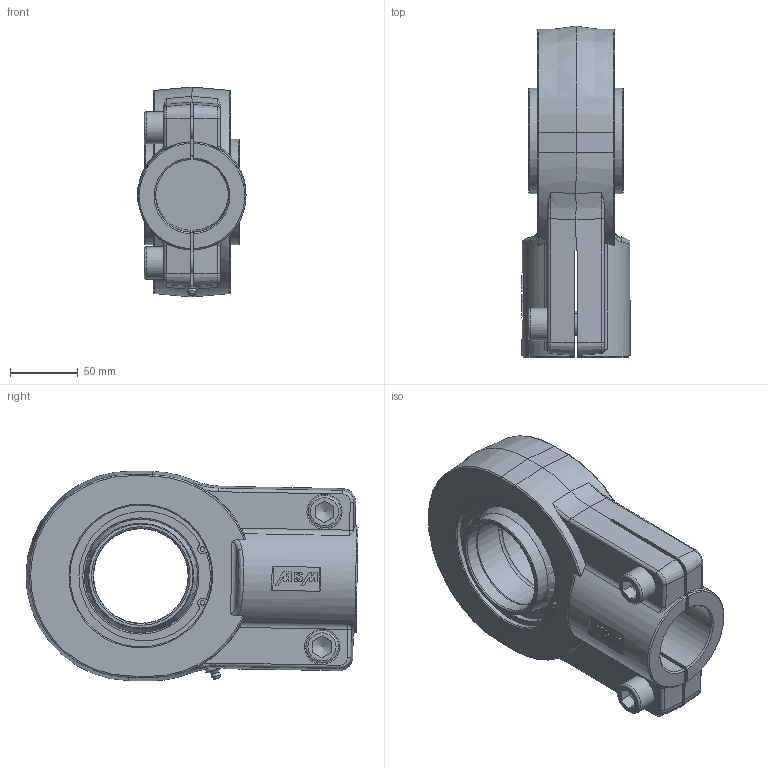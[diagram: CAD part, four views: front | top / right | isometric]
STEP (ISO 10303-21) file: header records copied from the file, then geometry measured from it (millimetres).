
FILE_DESCRIPTION((''),'2;1');
FILE_NAME('H:\WSW\Hydraulikgelenkköpfe\Aktuelle GK Zeichnungen andere Formate\WAPR..CE\WAPR..CE .STP\K-WAPR70CE.stp','2007-12-21T10:49:24',('oliver.joswig'),(''),'Autodesk Inventor 2008','Autodesk Inventor 2008','');
FILE_SCHEMA(('AUTOMOTIVE_DESIGN { 1 0 10303 214 1 1 1 1 }'));
Length unit declared in the file: millimetre
Products named in the file (7): K-WAPR70CE; GEEW_ES_AR mit Nut [Benennung=AR_GEEW70ES][Kugel_dk=46mm][Breite=40mm][Radius_r1s=1mm][Aussendurchmessser=52,5mm]; GEEW_ES_IR mit Nut [Benennung=IR70LO][Breite=70 mm][Kugel=46 mm][Bund_D=39 mm][Freid_b=10,5 mm][Freid_D=35,5 mm][Bohr=35 mm][Fase=45 grd][R_rs=1 mm]; F-WAPR70CE; DIN 472 105 x 4; DIN 71412  A  (Feingewinde) AM10 x 1 keg kurz; DIN EN ISO 4762  (Regelgewinde) M16 x 40
Assembly tree (8 placements, depth 2):
  K-WAPR70CE
    GEEW_ES_AR mit Nut [Benennung=AR_GEEW70ES][Kugel_dk=46mm][Breite=40mm][Radius_r1s=1mm][Aussendurchmessser=52,5mm]
    GEEW_ES_IR mit Nut [Benennung=IR70LO][Breite=70 mm][Kugel=46 mm][Bund_D=39 mm][Freid_b=10,5 mm][Freid_D=35,5 mm][Bohr=35 mm][Fase=45 grd][R_rs=1 mm]
    F-WAPR70CE
    DIN 472 105 x 4  x2
    DIN 71412  A  (Feingewinde) AM10 x 1 keg kurz
    DIN EN ISO 4762  (Regelgewinde) M16 x 40  x2
Bounding box: 80 x 245.67 x 155.25 mm (x, y, z)
Volume: 1336870.8 mm3; surface area: 226153.7 mm2
Topology: 8 solids, 8 shells, 292 faces, 718 edges, 453 vertices
Faces by surface type: plane 113, cylinder 68, bspline 44, cone 42, torus 22, sphere 3
Full cylindrical faces by diameter (mm): 3.32 x2, 3.5 x4, 5 x1, 5.954 x2, 10 x1, 16 x2, 24 x2, 57 x1, 70 x2, 71 x2, 78 x2, 105 x5, 109 x2
Entity records: 10752 total; most frequent: CARTESIAN_POINT 4760, ORIENTED_EDGE 1168, DIRECTION 1158, EDGE_CURVE 584, AXIS2_PLACEMENT_3D 462, VERTEX_POINT 400, EDGE_LOOP 364, FACE_OUTER_BOUND 266
